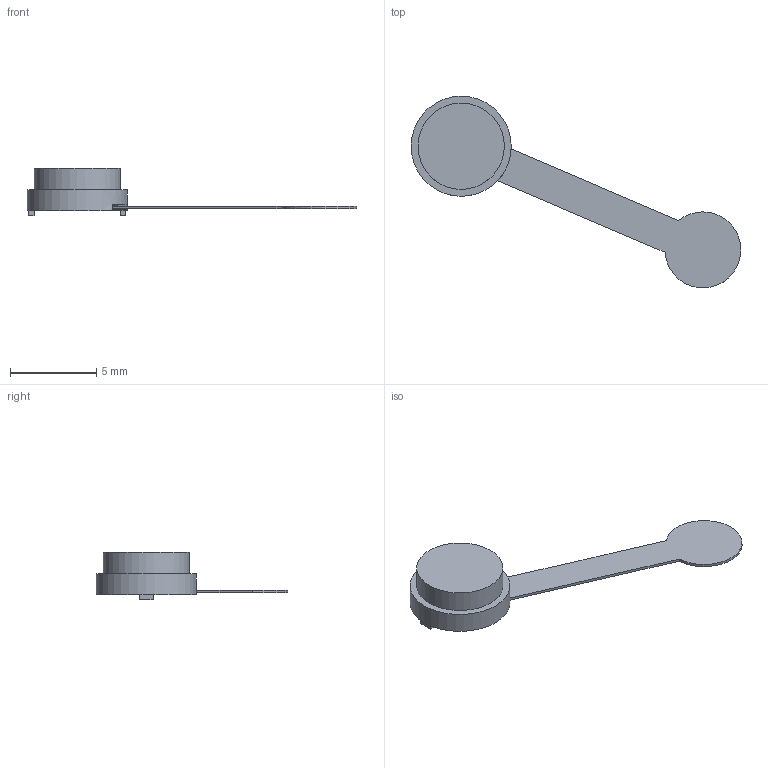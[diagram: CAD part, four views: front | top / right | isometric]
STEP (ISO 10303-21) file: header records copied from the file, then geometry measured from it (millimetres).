
FILE_DESCRIPTION(('Open CASCADE Model'),'2;1');
FILE_NAME('Open CASCADE Shape Model','2026-09-06T11:30:01',('Author'),( 'Open CASCADE'),'Open CASCADE STEP processor 7.7','Open CASCADE 7.7' ,'Unknown');
FILE_SCHEMA(('AUTOMOTIVE_DESIGN { 1 0 10303 214 1 1 1 1 }'));
Length unit declared in the file: millimetre
Products named in the file (12): ALT1_DIRECT_EMITTER_MECHANICAL_DEMONSTRATOR; ALT1_PMMA_diffuser_cup; ALT1_PMMA_diffuser_cup_part; ALT1_custom_flex_outline; ALT1_custom_flex_outline_part; REF_Inolux_IN_PI20TAT5R5G5B_nominal; REF_Inolux_IN_PI20TAT5R5G5B_nominal_part; ALT1_left_support_pad; ALT1_left_support_pad_part; ALT1_right_support_pad; ALT1_right_support_pad_part
Assembly tree (11 placements, depth 4):
  ALT1_DIRECT_EMITTER_MECHANICAL_DEMONSTRATOR
    ALT1_DIRECT_EMITTER_MECHANICAL_DEMONSTRATOR
      ALT1_PMMA_diffuser_cup
        ALT1_PMMA_diffuser_cup_part
      ALT1_custom_flex_outline
        ALT1_custom_flex_outline_part
      REF_Inolux_IN_PI20TAT5R5G5B_nominal
        REF_Inolux_IN_PI20TAT5R5G5B_nominal_part
      ALT1_left_support_pad
        ALT1_left_support_pad_part
      ALT1_right_support_pad
        ALT1_right_support_pad_part
Bounding box: 19.1 x 11.1 x 2.75 mm (x, y, z)
Volume: 56.4 mm3; surface area: 234.9 mm2
Topology: 5 solids, 5 shells, 39 faces, 81 edges, 54 vertices
Faces by surface type: plane 34, cylinder 5
Full cylindrical faces by diameter (mm): 4.7 x1, 5 x1, 5.8 x1
Entity records: 2288 total; most frequent: CARTESIAN_POINT 400, DIRECTION 337, LINE 199, VECTOR 199, ORIENTED_EDGE 162, PCURVE 162, DEFINITIONAL_REPRESENTATION 162, EDGE_CURVE 81
